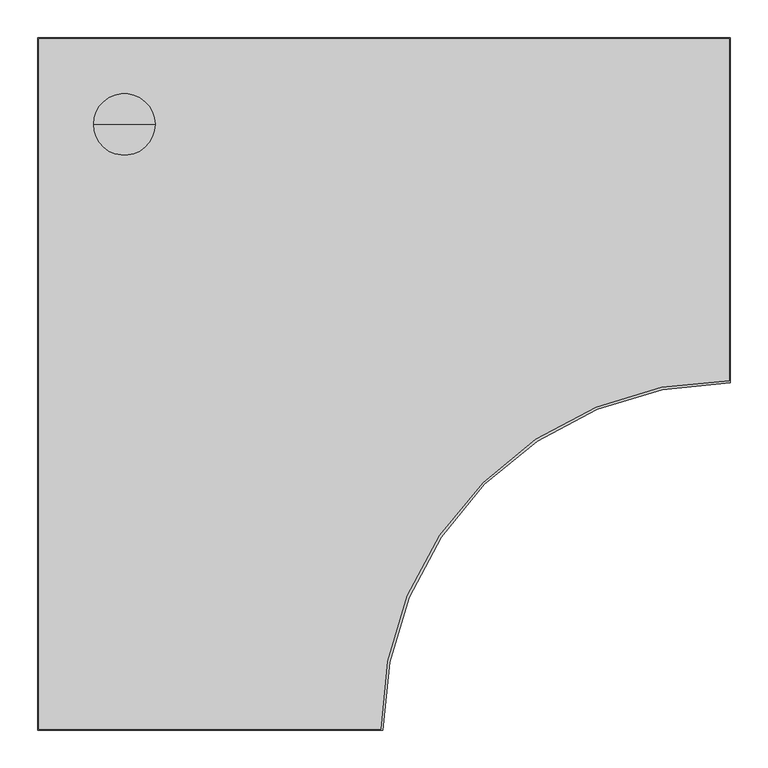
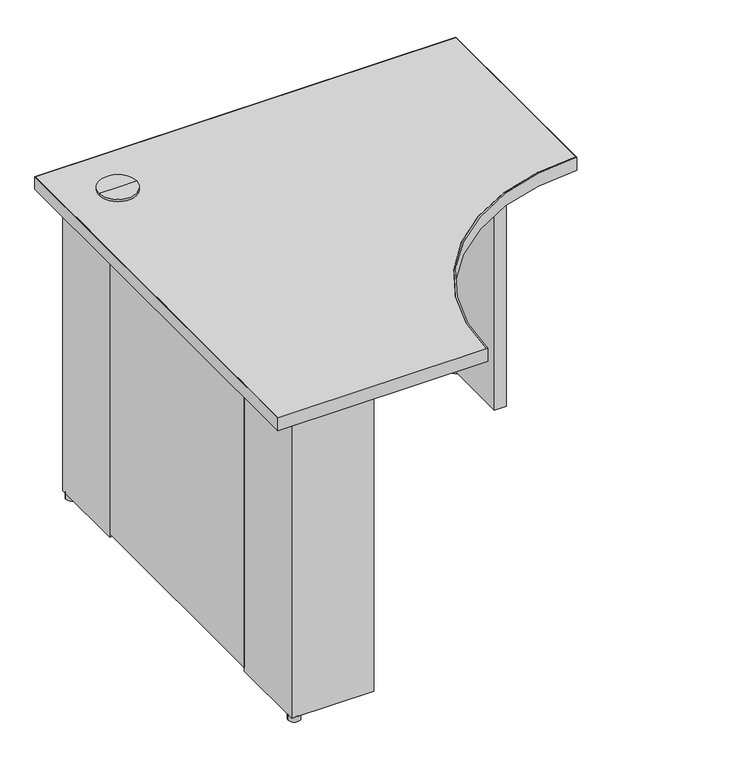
"""IFC4 building model written with IfcOpenShell, lengths in millimetres: furniture geometry, Steelcase - Kick Freestanding - Desk - Curve Corner - Full Height Modesty Panel : 18D x 36W - LPL."""

import ifcopenshell
import ifcopenshell.guid

model = None  # the IFC model being written
_history = None  # IfcOwnerHistory: only IFC2X3 demands one
_inside = {}  # id of a spatial element -> (the spatial element, [elements in it])
_under = {}  # id of a project, library or spatial element -> (it, [spatial elements below it])
_declared = {}  # id of a project -> (the project, [libraries it declares])
_typed = {}  # id of a type object -> (the type object, [elements of that type])
_made_of = {}  # id of a material, layer set ... -> (it, [elements and type objects made of it])


def new_model(schema):
    """Start an empty IFC model of exactly this schema.

    Asked for "IFC4X3", IfcOpenShell would pick the latest addendum, in which some entities
    have other attributes; the version numbers below select the first issue.
    IFC2X3 requires an IfcOwnerHistory on every rooted entity: one is made here for all.
    """
    global model, _history
    if schema == "IFC4X3":
        model = ifcopenshell.file(schema_version=(4, 3, 0, 0))
    else:
        model = ifcopenshell.file(schema=schema)
    _inside.clear()
    _under.clear()
    _declared.clear()
    _typed.clear()
    _made_of.clear()
    _history = None
    if model.schema == "IFC2X3":
        org = make("IfcOrganization", Name="unknown")
        user = make(
            "IfcPersonAndOrganization",
            ThePerson=make("IfcPerson", FamilyName="unknown"),
            TheOrganization=org,
        )
        app = make(
            "IfcApplication",
            ApplicationDeveloper=org,
            Version="unknown",
            ApplicationFullName="unknown",
            ApplicationIdentifier="unknown",
        )
        _history = make(
            "IfcOwnerHistory",
            OwningUser=user,
            OwningApplication=app,
            ChangeAction="ADDED",
            CreationDate=0,
        )
    return model


def make(cls, **values):
    """One entity of the class cls with the attributes given. An attribute that is None is left unset."""
    return model.create_entity(
        cls, **{name: value for name, value in values.items() if value is not None}
    )


def rooted(cls, **values):
    """An entity with a GlobalId (a new one), such as an element, a storey or a relation."""
    return make(cls, GlobalId=ifcopenshell.guid.new(), OwnerHistory=_history, **values)


def si_unit(unit_type, name, prefix=None):
    """IfcSIUnit, for example si_unit("LENGTHUNIT", "METRE", prefix="MILLI")."""
    return make("IfcSIUnit", UnitType=unit_type, Prefix=prefix, Name=name)


def assignment(units):
    """IfcUnitAssignment: the units of a project."""
    return None if units is None else make("IfcUnitAssignment", Units=units)


def point(xyz):
    """IfcCartesianPoint."""
    return None if xyz is None else make("IfcCartesianPoint", Coordinates=xyz)


def direction(xyz):
    """IfcDirection."""
    return None if xyz is None else make("IfcDirection", DirectionRatios=xyz)


def frame(location, z_axis=None, x_axis=None):
    """IfcAxis2Placement3D, a coordinate frame: its origin and axes. An axis left out is left unset."""
    return make(
        "IfcAxis2Placement3D",
        Location=point(location),
        Axis=direction(z_axis),
        RefDirection=direction(x_axis),
    )


def frame_2d(location, x_axis=None):
    """IfcAxis2Placement2D, a coordinate frame in the plane: its origin and x axis."""
    return make(
        "IfcAxis2Placement2D", Location=point(location), RefDirection=direction(x_axis)
    )


def origin():
    """The frame at (0, 0, 0) with its axes left unset."""
    return frame((0.0, 0.0, 0.0))


def origin_with_axes():
    """The frame at (0, 0, 0) with the z axis (0, 0, 1) and the x axis (1, 0, 0) written out."""
    return frame((0.0, 0.0, 0.0), z_axis=(0.0, 0.0, 1.0), x_axis=(1.0, 0.0, 0.0))


def place(relative_to, where):
    """IfcLocalPlacement: puts the frame where relative to a parent placement (None: the world)."""
    return make(
        "IfcLocalPlacement", PlacementRelTo=relative_to, RelativePlacement=where
    )


def context(
    kind, dimensions, precision=None, world=None, true_north=None, identifier=None
):
    """IfcGeometricRepresentationContext, for example the 3D "Model" context."""
    return make(
        "IfcGeometricRepresentationContext",
        ContextIdentifier=identifier,
        ContextType=kind,
        CoordinateSpaceDimension=dimensions,
        Precision=precision,
        WorldCoordinateSystem=world,
        TrueNorth=true_north,
    )


def project(units=None, contexts=None):
    """IfcProject with its units and contexts."""
    return rooted(
        "IfcProject",
        Name="project",
        RepresentationContexts=contexts,
        UnitsInContext=assignment(units),
    )


def spatial(cls, under=None, at=None, **own):
    """A site, building, storey or space (cls), placed at a placement, below another one or the project."""
    s = rooted(cls, ObjectPlacement=at, **own)
    if under is not None:
        _under.setdefault(under.id(), (under, []))[1].append(s)
    return s


def polyline(points):
    """IfcPolyline through the points."""
    return make("IfcPolyline", Points=[point(p) for p in points])


def circle_curve(where, radius):
    """IfcCircle in the frame where."""
    return make("IfcCircle", Position=where, Radius=radius)


def trimmed(basis, trim1, trim2, sense, master):
    """IfcTrimmedCurve: the piece of a basis curve between two trims."""
    return make(
        "IfcTrimmedCurve",
        BasisCurve=basis,
        Trim1=trim1,
        Trim2=trim2,
        SenseAgreement=sense,
        MasterRepresentation=master,
    )


def segment(curve, same_sense, transition):
    """IfcCompositeCurveSegment."""
    return make(
        "IfcCompositeCurveSegment",
        Transition=transition,
        SameSense=same_sense,
        ParentCurve=curve,
    )


def composite_curve(segments, self_intersect=None):
    """IfcCompositeCurve: segments joined end to end."""
    return make("IfcCompositeCurve", Segments=segments, SelfIntersect=self_intersect)


def outline(outer, holes=None, kind="AREA"):
    """IfcArbitraryClosedProfileDef: a profile drawn as a closed curve; with holes, ...WithVoids."""
    if holes is None:
        return make("IfcArbitraryClosedProfileDef", ProfileType=kind, OuterCurve=outer)
    return make(
        "IfcArbitraryProfileDefWithVoids",
        ProfileType=kind,
        OuterCurve=outer,
        InnerCurves=holes,
    )


def extrude(swept, where, along, depth):
    """IfcExtrudedAreaSolid: the profile swept, set in the frame where, extruded along a direction by depth."""
    return make(
        "IfcExtrudedAreaSolid",
        SweptArea=swept,
        Position=where,
        ExtrudedDirection=direction(along),
        Depth=depth,
    )


def shape(context_of_items, identifier, shape_type, items):
    """IfcShapeRepresentation: the items that make up one representation, for example the "Body"."""
    return make(
        "IfcShapeRepresentation",
        ContextOfItems=context_of_items,
        RepresentationIdentifier=identifier,
        RepresentationType=shape_type,
        Items=items,
    )


def source(mapping_origin, context_of_items, identifier, shape_type, items):
    """IfcRepresentationMap: a shape defined once, which mapped items show again and again."""
    return make(
        "IfcRepresentationMap",
        MappingOrigin=mapping_origin,
        MappedRepresentation=shape(context_of_items, identifier, shape_type, items),
    )


def transform(
    local_origin,
    x_axis=None,
    y_axis=None,
    z_axis=None,
    scale=None,
    scale2=None,
    scale3=None,
    uniform=True,
):
    """IfcCartesianTransformationOperator3D, or its non-uniform kind. x_axis, y_axis, z_axis: its Axis1, 2, 3."""
    if uniform:
        return make(
            "IfcCartesianTransformationOperator3D",
            Axis1=direction(x_axis),
            Axis2=direction(y_axis),
            LocalOrigin=point(local_origin),
            Scale=scale,
            Axis3=direction(z_axis),
        )
    return make(
        "IfcCartesianTransformationOperator3DnonUniform",
        Axis1=direction(x_axis),
        Axis2=direction(y_axis),
        LocalOrigin=point(local_origin),
        Scale=scale,
        Axis3=direction(z_axis),
        Scale2=scale2,
        Scale3=scale3,
    )


def mapped(mapping_source, mapping_target):
    """IfcMappedItem: shows the shape of a source again, moved by a transform."""
    return make(
        "IfcMappedItem", MappingSource=mapping_source, MappingTarget=mapping_target
    )


def made_of(thing, what):
    """Note that an element or type object is made of a material, layer set ...; save() writes the relation."""
    if what is not None:
        _made_of.setdefault(what.id(), (what, []))[1].append(thing)
    return thing


def element(
    cls,
    number,
    at=None,
    inside=None,
    cuts=None,
    type_object=None,
    material=None,
    context=None,
    identifier="Body",
    shape_type=None,
    held_by="IfcProductDefinitionShape",
    body=None,
    shapes=None,
    **own,
):
    """One element of the class cls, such as IfcWall. Its Tag is "e" and its number.

    at: its placement. inside: the storey or other place that contains it. cuts: it is an
    opening in that element (IfcRelVoidsElement). A single representation is given by context,
    identifier, shape_type and body (its items); several are given by shapes. held_by: the class
    of the entity that holds the representations. save() writes the other relations.
    """
    e = rooted(cls, Tag="e%d" % number, ObjectPlacement=at, **own)
    if body is not None:
        shapes = [shape(context, identifier, shape_type, body)]
    if shapes is not None:
        e.Representation = make(held_by, Representations=shapes)
    if inside is not None:
        _inside.setdefault(inside.id(), (inside, []))[1].append(e)
    if cuts is not None:
        rooted(
            "IfcRelVoidsElement", RelatingBuildingElement=cuts, RelatedOpeningElement=e
        )
    if type_object is not None:
        _typed.setdefault(type_object.id(), (type_object, []))[1].append(e)
    return made_of(e, material)


def aggregate(whole, parts):
    """IfcRelAggregates: a whole, such as a stair, and the parts it consists of."""
    return rooted("IfcRelAggregates", RelatingObject=whole, RelatedObjects=parts)


def save(model, path):
    """Write the relations noted so far, then the file.

    IfcRelAggregates (storeys below a building ...), IfcRelContainedInSpatialStructure (elements
    in a storey), IfcRelDefinesByType, IfcRelAssociatesMaterial and IfcRelDeclares: one each for
    every whole, place, type object, material and project.
    """
    for whole, parts in _under.values():
        aggregate(whole, parts)
    for where, things in _inside.values():
        rooted(
            "IfcRelContainedInSpatialStructure",
            RelatedElements=things,
            RelatingStructure=where,
        )
    for kind, things in _typed.values():
        rooted("IfcRelDefinesByType", RelatedObjects=things, RelatingType=kind)
    for what, things in _made_of.values():
        rooted("IfcRelAssociatesMaterial", RelatedObjects=things, RelatingMaterial=what)
    for by, libraries in _declared.values():
        rooted("IfcRelDeclares", RelatingContext=by, RelatedDefinitions=libraries)
    model.write(path)


def plane_surface(at):
    """IfcPlane: the flat surface through the origin of the frame at, square to its z axis."""
    return make("IfcPlane", Position=at)


def cylinder_surface(at, radius):
    """IfcCylindricalSurface: all points at the distance radius from the z axis of the frame at."""
    return make("IfcCylindricalSurface", Position=at, Radius=radius)


def advanced_brep(points, edges, surfaces, faces):
    """IfcAdvancedBrep: a solid bounded by faces that lie on surfaces and meet in shared edges.

    An edge is (start, end): straight between two places in points (the first is 0);
    or (start, end, curve); or (start, end, curve, False) where it runs against its curve.
    A face is (place in surfaces, loops), or (place, loops, False) where it looks against
    its surface's normal. A loop lists edges by number (the first is 1), with a minus sign
    where the edge is run from its end to its start. The first loop is the outer one.
    """
    corners = [point(p) for p in points]
    vertices = [make("IfcVertexPoint", VertexGeometry=c) for c in corners]
    made = []
    for start, end, *more in edges:
        made.append(
            make(
                "IfcEdgeCurve",
                EdgeStart=vertices[start],
                EdgeEnd=vertices[end],
                EdgeGeometry=more[0] if more else make("IfcPolyline", Points=[corners[start], corners[end]]),
                SameSense=more[1] if len(more) > 1 else True,
            )
        )
    hull = []
    for where, loops, *sense in faces:
        bounds = []
        for j, loop in enumerate(loops):
            ring = [make("IfcOrientedEdge", EdgeElement=made[abs(k) - 1], Orientation=k > 0) for k in loop]
            bounds.append(
                make(
                    "IfcFaceOuterBound" if j == 0 else "IfcFaceBound",
                    Bound=make("IfcEdgeLoop", EdgeList=ring),
                    Orientation=True,
                )
            )
        hull.append(make("IfcAdvancedFace", Bounds=bounds, FaceSurface=surfaces[where], SameSense=sense[0] if sense else True))
    return make("IfcAdvancedBrep", Outer=make("IfcClosedShell", CfsFaces=hull))


def furniture_47a35120(model_context):
    return source(origin(), model_context, "Body", "SolidModel", [
        extrude(outline(polyline([(721.6393822, -63.5), (721.6393822, -38.1), (899.4393579, -38.1), (899.4393579, -215.8999939), (873.5313463, -215.8999939), (873.5313463, -63.5), (721.6393822, -63.5)])), frame((0.0, 0.0, 12.446), z_axis=(0.0, 0.0, 1.0), x_axis=(1.0, 0.0, 0.0)), (0.0, 0.0, 1.0), 682.498),
        extrude(outline(polyline([(215.8999939, -63.5), (63.5, -63.5), (63.5, -215.8999939), (38.1, -215.8999939), (38.1, -38.1), (215.8999939, -38.1), (215.8999939, -63.5)])), frame((0.0, 0.0, 12.446), z_axis=(0.0, 0.0, 1.0), x_axis=(1.0, 0.0, 0.0)), (0.0, 0.0, 1.0), 682.498),
        advanced_brep(
        [(114.3, -114.3, 728.98), (154.94, -114.3, 728.98), (73.66, -114.3, 728.98), (76.1699693, -114.3, 694.944), (152.4300307, -114.3, 694.944), (114.3, -114.3, 694.944), (76.1699693, -114.3, 723.9), (152.4300307, -114.3, 723.9), (73.66, -114.3, 723.9), (154.94, -114.3, 723.9)],
        [
            (0, 1),
            (1, 2, circle_curve(frame((114.3, -114.3, 728.98), z_axis=(0.0, 0.0, 1.0), x_axis=(1.0, 0.0, 0.0)), 40.64)),
            (2, 0),
            (2, 1, circle_curve(frame((114.3, -114.3, 728.98), z_axis=(0.0, 0.0, 1.0), x_axis=(1.0, 0.0, 0.0)), 40.64)),
            (3, 4, circle_curve(frame((114.3, -114.3, 694.944), z_axis=(0.0, 0.0, -1.0), x_axis=(1.0, 0.0, 0.0)), 38.1300307)),
            (4, 5),
            (5, 3),
            (4, 3, circle_curve(frame((114.3, -114.3, 694.944), z_axis=(0.0, 0.0, -1.0), x_axis=(1.0, 0.0, 0.0)), 38.1300307)),
            (6, 7, circle_curve(frame((114.3, -114.3, 723.9), z_axis=(0.0, 0.0, -1.0), x_axis=(1.0, 0.0, 0.0)), 38.1300307)),
            (7, 4),
            (3, 6),
            (7, 6, circle_curve(frame((114.3, -114.3, 723.9), z_axis=(0.0, 0.0, -1.0), x_axis=(1.0, 0.0, 0.0)), 38.1300307)),
            (8, 9, circle_curve(frame((114.3, -114.3, 723.9), z_axis=(0.0, 0.0, -1.0), x_axis=(1.0, 0.0, 0.0)), 40.64)),
            (9, 7),
            (6, 8),
            (9, 8, circle_curve(frame((114.3, -114.3, 723.9), z_axis=(0.0, 0.0, -1.0), x_axis=(1.0, 0.0, 0.0)), 40.64)),
            (1, 9),
            (8, 2),
        ],
        [
            plane_surface(frame((114.3, -114.3, 728.98), z_axis=(0.0, 0.0, 1.0), x_axis=(1.0, 0.0, 0.0))),
            plane_surface(frame((114.3, -114.3, 694.944), z_axis=(0.0, 0.0, -1.0), x_axis=(1.0, 0.0, 0.0))),
            cylinder_surface(frame((114.3, -114.3, 728.98), z_axis=(0.0, 0.0, 1.0), x_axis=(1.0, 0.0, 0.0)), 38.1300307),
            plane_surface(frame((114.3, -114.3, 723.9), z_axis=(0.0, 0.0, -1.0), x_axis=(1.0, 0.0, 0.0))),
            cylinder_surface(frame((114.3, -114.3, 728.98), z_axis=(0.0, 0.0, 1.0), x_axis=(1.0, 0.0, 0.0)), 40.64),
        ],
        [
            (0, [[1, 2, 3]]),
            (0, [[-3, 4, -1]]),
            (1, [[5, 6, 7]]),
            (1, [[8, -7, -6]]),
            (2, [[9, 10, -5, 11]]),
            (2, [[12, -11, -8, -10]]),
            (3, [[13, 14, -9, 15]]),
            (3, [[16, -15, -12, -14]]),
            (4, [[-2, 17, -13, 18]]),
            (4, [[-4, -18, -16, -17]]),
        ],
    ),
        extrude(outline(composite_curve([segment(trimmed(circle_curve(frame_2d((50.8, -50.8)), 12.7), [point((38.1, -50.8))], [point((63.5, -50.8))], False, "CARTESIAN"), True, "CONTINUOUS"), segment(trimmed(circle_curve(frame_2d((50.8, -50.8)), 12.7), [point((63.5, -50.8))], [point((38.1, -50.8))], False, "CARTESIAN"), True, "CONTINUOUS")], self_intersect=False)), origin_with_axes(), (0.0, 0.0, 1.0), 12.446),
        extrude(outline(composite_curve([segment(trimmed(circle_curve(frame_2d((50.8, -887.7300073)), 12.7484998), [point((38.0515002, -887.7300073))], [point((63.5484998, -887.7300073))], False, "CARTESIAN"), True, "CONTINUOUS"), segment(trimmed(circle_curve(frame_2d((50.8, -887.7300073)), 12.7484998), [point((63.5484998, -887.7300073))], [point((38.0515002, -887.7300073))], False, "CARTESIAN"), True, "CONTINUOUS")], self_intersect=False)), origin_with_axes(), (0.0, 0.0, 1.0), 12.446),
        extrude(outline(composite_curve([segment(trimmed(circle_curve(frame_2d((886.4853521, -50.8)), 12.7), [point((873.7853521, -50.8))], [point((899.1853521, -50.8))], False, "CARTESIAN"), True, "CONTINUOUS"), segment(trimmed(circle_curve(frame_2d((886.4853521, -50.8)), 12.7), [point((899.1853521, -50.8))], [point((873.7853521, -50.8))], False, "CARTESIAN"), True, "CONTINUOUS")], self_intersect=False)), origin_with_axes(), (0.0, 0.0, 1.0), 12.446),
        extrude(outline(polyline([(63.5, -215.8999939), (63.5, -722.6300194), (38.1, -722.6300194), (38.1, -215.8999939), (63.5, -215.8999939)])), frame((0.0, 0.0, 20.828), z_axis=(0.0, 0.0, 1.0), x_axis=(1.0, 0.0, 0.0)), (0.0, 0.0, 1.0), 674.116),
        extrude(outline(polyline([(721.6393822, -38.1), (721.6393822, -63.5), (215.8999939, -63.5), (215.8999939, -38.1), (721.6393822, -38.1)])), frame((0.0, 0.0, 20.828), z_axis=(0.0, 0.0, 1.0), x_axis=(1.0, 0.0, 0.0)), (0.0, 0.0, 1.0), 674.116),
        extrude(outline(polyline([(215.8999939, -875.0300194), (215.8999939, -900.4299952), (38.1, -900.4299952), (38.1, -722.6300194), (63.5, -722.6300194), (63.5, -875.0300194), (215.8999939, -875.0300194)])), frame((0.0, 0.0, 12.446), z_axis=(0.0, 0.0, 1.0), x_axis=(1.0, 0.0, 0.0)), (0.0, 0.0, 1.0), 682.498),
        extrude(outline(composite_curve([segment(polyline([(0.9906, -913.4093628), (0.9906, -0.9906), (913.4093628, -0.9906), (913.4093628, -452.9354109)]), True, "CONTINUOUS"), segment(trimmed(circle_curve(frame_2d((912.1393458, -912.1393458)), 459.2056912), [point((913.4093628, -452.9354109))], [point((452.9354109, -913.4093628))], True, "CARTESIAN"), True, "CONTINUOUS"), segment(polyline([(452.9354109, -913.4093628), (0.9906, -913.4093628)]), True, "CONTINUOUS")], self_intersect=False)), frame((0.0, 0.0, 694.944), z_axis=(0.0, 0.0, 1.0), x_axis=(1.0, 0.0, 0.0)), (0.0, 0.0, 1.0), 28.956),
        extrude(outline(composite_curve([segment(polyline([(914.4, 0.0), (914.4, -455.932629)]), True, "CONTINUOUS"), segment(trimmed(circle_curve(frame_2d((913.129983, -913.129983)), 457.199118), [point((914.4, -455.932629))], [point((455.932629, -914.4))], True, "CARTESIAN"), True, "CONTINUOUS"), segment(polyline([(455.932629, -914.4), (0.0, -914.4), (0.0, 0.0), (914.4, 0.0)]), True, "CONTINUOUS")], self_intersect=False), holes=[composite_curve([segment(polyline([(913.4093628, -0.9906), (0.9906, -0.9906), (0.9906, -913.4093628), (452.9354109, -913.4093628)]), True, "CONTINUOUS"), segment(trimmed(circle_curve(frame_2d((912.1393458, -912.1393458)), 459.2056912), [point((452.9354109, -913.4093628))], [point((913.4093628, -452.9354109))], False, "CARTESIAN"), True, "CONTINUOUS"), segment(polyline([(913.4093628, -452.9354109), (913.4093628, -0.9906)]), True, "CONTINUOUS")], self_intersect=False)]), frame((0.0, 0.0, 694.944), z_axis=(0.0, 0.0, 1.0), x_axis=(1.0, 0.0, 0.0)), (0.0, 0.0, 1.0), 28.956),
    ])


if __name__ == "__main__":
    model = new_model("IFC4")
    model_context = context("Model", 3, world=origin())
    ifc_project = project(units=[si_unit("LENGTHUNIT", "METRE", prefix="MILLI")], contexts=[model_context])
    site = spatial("IfcSite", under=ifc_project)
    building = spatial("IfcBuilding", under=site)
    placement = place(None, origin())
    furniture_shape = furniture_47a35120(model_context)
    element("IfcFurniture", 1, ObjectType="Steelcase - Kick Freestanding - Desk - Curve Corner - Full Height Modesty Panel : 18D x 36W - LPL", at=placement, inside=building, context=model_context, shape_type="MappedRepresentation", body=[
        mapped(furniture_shape, transform((0.0, 0.0, 0.0), x_axis=(1.0, 0.0, 0.0), y_axis=(0.0, 1.0, 0.0), z_axis=(0.0, 0.0, 1.0))),
    ])
    save(model, "model.ifc")
